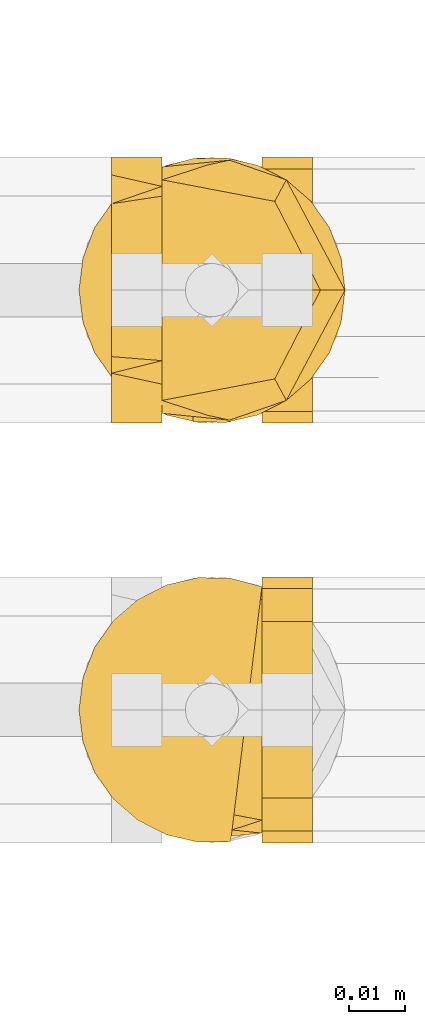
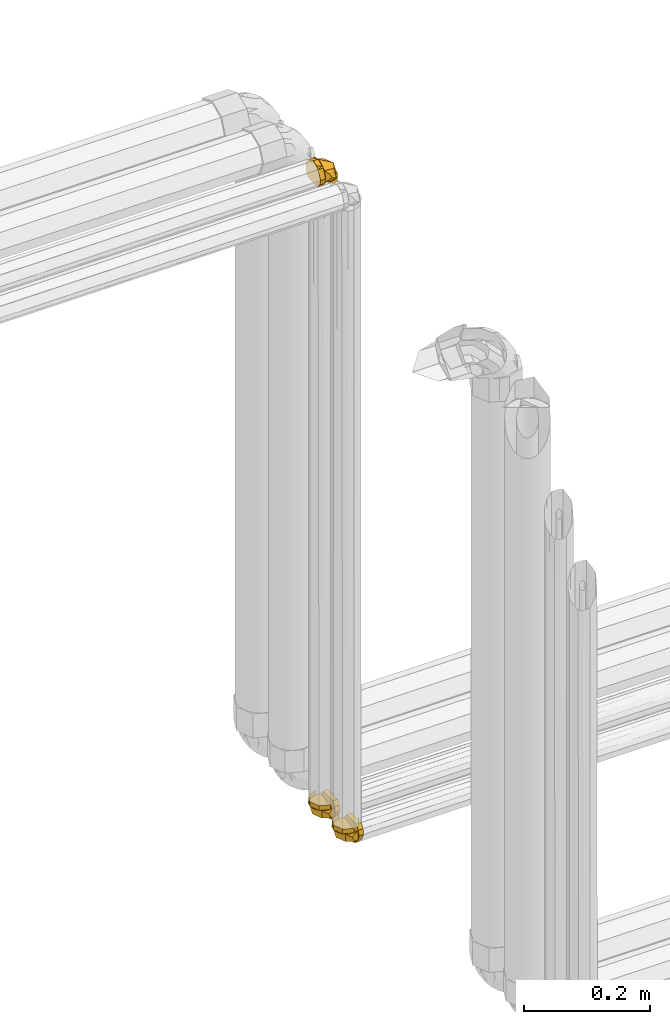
# One storey, part 371 of 652: 3 coverings.
"""IFC2X3 building model written with IfcOpenShell, lengths in millimetres."""

from ifc_helpers import new_model, entity, si_unit, converted_unit, direction, frame, origin, place, context, subcontext, project, spatial, face_set, surface_model, material, type_object, element, save


model = new_model("IFC2X3")

# Units and contexts
model_context = context("Model", 3, precision=0.01, world=frame((0.0, 0.0, 308426.39999999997)), true_north=direction((6.123233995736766e-17, 1.0)))
plan_context = context("Plan", 3, precision=0.01, world=frame((0.0, 0.0, 308426.39999999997)), true_north=direction((6.123233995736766e-17, 1.0)))
body_context = subcontext(model_context, "Body", "Model", "MODEL_VIEW")
ifc_project = project(units=[si_unit("LENGTHUNIT", "METRE", prefix="MILLI"), si_unit("AREAUNIT", "SQUARE_METRE"), si_unit("VOLUMEUNIT", "CUBIC_METRE"), converted_unit("PLANEANGLEUNIT", "DEGREE", entity("IfcPlaneAngleMeasure", 0.017453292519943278), si_unit("PLANEANGLEUNIT", "RADIAN"), dimensions=[0, 0, 0, 0, 0, 0, 0])], contexts=[model_context, plan_context])

# Site, building, storey
site_placement = place(None, origin())
site = spatial("IfcSite", under=ifc_project, at=site_placement, Name="Default", CompositionType="ELEMENT")
building_placement = place(site_placement, origin())
building = spatial("IfcBuilding", under=site, at=building_placement, CompositionType="ELEMENT")
storey_placement = place(building_placement, frame((0.0, 0.0, 1730.6999999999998)))
storey = spatial("IfcBuildingStorey", under=building, at=storey_placement, Name="EG_Produktion_FFB", CompositionType="ELEMENT", Elevation=1730.6999999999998)

# Coverings
ifc_material = material(Name="Dämmung - Armaflex-Schlauch")
covering_type = type_object("IfcCoveringType", Name="Rohrdämmung außen:Armaflex-Schlauch", PredefinedType="INSULATION")
covering_1_placement = place(storey_placement, frame((69480.61107910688, 41399.64067746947, 3825.3577722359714)))
element("IfcCovering", 1, at=covering_1_placement, inside=storey, type_object=covering_type, material=ifc_material, Name="Rohrdämmung außen:Armaflex-Schlauch", ObjectType="Rohrdämmung außen:Armaflex-Schlauch", PredefinedType="INSULATION", context=body_context, shape_type="SurfaceModel", body=[
    surface_model("IfcFaceBasedSurfaceModel", [(10.458420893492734, 47.37827577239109, -34.28827223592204), (16.054796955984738, 48.88520354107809, -34.28827223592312), (21.84951324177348, 48.99253247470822, -34.288272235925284), (27.497853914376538, 47.69387779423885, -34.288272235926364), (32.66381072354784, 45.06649381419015, -34.28827223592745), (37.04007144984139, 41.266678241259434, -34.28827223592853), (40.36630128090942, 36.52047434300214, -34.28827223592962), (42.44462959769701, 31.11022409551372, -34.2882722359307), (43.151420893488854, 25.35777223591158, -34.2882722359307), (42.44462959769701, 19.605320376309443, -34.2882722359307), (40.36630128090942, 14.19507012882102, -34.28827223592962), (37.04007144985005, 9.448866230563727, -34.28827223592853), (32.66381072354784, 5.649050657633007, -34.28827223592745), (27.497853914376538, 3.0216666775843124, -34.288272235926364), (21.84951324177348, 1.7230119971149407, -34.288272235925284), (16.054796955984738, 1.8303409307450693, -34.28827223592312), (10.458420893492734, 3.3372686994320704, -34.28827223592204), (10.458420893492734, 1.8303409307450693, -28.691896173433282), (10.458420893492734, 1.7230119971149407, -22.897179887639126), (10.458420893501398, 3.0216666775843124, -17.248839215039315), (10.458420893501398, 5.649050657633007, -12.082882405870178), (10.458420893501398, 9.448866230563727, -7.706621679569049), (10.458420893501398, 14.19507012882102, -4.380391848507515), (10.458420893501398, 19.605320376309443, -2.3020635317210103), (10.458420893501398, 25.35777223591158, -1.5952722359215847), (10.458420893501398, 31.11022409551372, -2.3020635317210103), (10.458420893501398, 36.52047434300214, -4.380391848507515), (10.458420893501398, 41.266678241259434, -7.706621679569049), (10.458420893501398, 45.06649381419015, -12.082882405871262), (10.458420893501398, 47.69387779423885, -17.248839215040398), (10.458420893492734, 48.99253247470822, -22.897179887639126), (10.458420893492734, 48.88520354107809, -28.691896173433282), (18.57932616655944, 47.71779421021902, -19.3811898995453), (30.597197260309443, 41.21586549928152, -16.867389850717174), (10.458891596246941, 46.234163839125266, -23.314670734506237), (37.96884032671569, 35.09995973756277, -34.28841951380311), (38.77344237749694, 25.356368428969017, -17.941742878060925), (10.458891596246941, 35.211580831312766, -6.838932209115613), (23.52786132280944, 25.356368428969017, -9.1399545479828), (22.523271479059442, 48.57355592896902, -27.20803773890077), (21.56053954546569, 46.22021120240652, -34.28841951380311), (18.57932616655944, 2.9995935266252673, -19.3811898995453), (22.523271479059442, 2.1391809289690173, -27.20803773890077), (30.597197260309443, 9.496871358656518, -16.867389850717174), (37.96884032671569, 15.617427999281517, -34.28841951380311), (10.458891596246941, 4.478573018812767, -23.314670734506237), (10.458891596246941, 15.617427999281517, -6.777889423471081), (24.616166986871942, 25.356368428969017, -9.76840456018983), (21.56053954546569, 4.492525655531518, -34.28841951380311), (19.38857909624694, 49.12235963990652, -43.30821779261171), (19.38857909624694, 49.12235963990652, -34.28841951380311), (36.19220458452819, 42.15999391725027, -34.28841951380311), (36.19220458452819, 42.15999391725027, -43.30821779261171), (43.14991942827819, 25.356368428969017, -34.28841951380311), (43.14991942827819, 25.356368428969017, -43.30821779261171), (36.19220458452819, 8.557393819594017, -34.28841951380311), (36.19220458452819, 8.557393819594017, -43.30821779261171), (19.38857909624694, 1.5950280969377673, -34.28841951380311), (19.38857909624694, 1.5950280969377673, -43.30821779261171), (1.4386708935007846, 4.565584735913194, -20.213040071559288), (1.4386708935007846, 7.535897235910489, -15.068307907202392), (1.4386708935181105, 10.506209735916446, -9.923575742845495), (1.4386708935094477, 13.47652223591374, -4.7788435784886), (1.4386708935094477, 19.417147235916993, -3.187057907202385), (1.4386708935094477, 25.35777223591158, -1.5952722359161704), (1.4386708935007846, 30.50250440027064, -4.565584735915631), (1.4386708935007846, 35.6472365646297, -7.535897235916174), (1.4386708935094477, 40.7919687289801, -10.506209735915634), (1.4386708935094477, 45.936700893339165, -13.476522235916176), (1.4386708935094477, 47.52848656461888, -19.41714723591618), (1.4386708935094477, 49.12027223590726, -25.357772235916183), (1.4386708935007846, 48.0724235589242, -30.23645211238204), (1.4386708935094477, 47.024574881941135, -35.11513198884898), (1.4386708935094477, 44.06585567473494, -39.13327644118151), (1.4386708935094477, 41.107136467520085, -43.15142089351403), (1.4386708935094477, 9.608408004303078, -43.15142089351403), (1.4386708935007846, 6.64968879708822, -39.13327644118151), (1.4386708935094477, 3.690969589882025, -35.11513198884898), (1.4386708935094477, 2.6431209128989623, -30.23645211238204), (1.4386708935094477, 1.5952722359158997, -25.357772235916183), (10.458420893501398, 8.55514734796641, -8.55514734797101), (10.458420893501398, 6.815178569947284, -12.755803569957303), (10.458420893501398, 5.075209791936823, -16.956459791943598), (10.458420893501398, 3.3352410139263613, -21.15711601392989), (10.458420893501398, 1.5952722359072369, -25.357772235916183), (10.458420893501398, 2.6431209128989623, -30.23645211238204), (10.458420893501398, 3.690969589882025, -35.11513198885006), (10.458420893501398, 6.729669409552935, -39.241895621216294), (10.458420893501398, 9.608408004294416, -43.15142089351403), (10.458420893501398, 41.107136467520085, -43.15142089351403), (10.458420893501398, 44.06585567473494, -39.13327644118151), (10.458420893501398, 47.02457488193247, -35.11513198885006), (10.458420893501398, 48.10074918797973, -30.104570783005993), (10.458420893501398, 49.12027223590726, -25.357772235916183), (10.458420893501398, 47.3803034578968, -21.15711601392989), (10.458420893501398, 45.64033467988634, -16.956459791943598), (10.458420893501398, 43.90036590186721, -12.755803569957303), (10.458420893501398, 42.160397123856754, -8.55514734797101), (10.458420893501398, 37.95974090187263, -6.8151785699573), (10.458420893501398, 33.759084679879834, -5.075209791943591), (10.458420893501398, 29.558428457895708, -3.3352410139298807), (10.458420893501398, 25.35777223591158, -1.5952722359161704), (10.458420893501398, 21.157116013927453, -3.3352410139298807), (10.458420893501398, 16.956459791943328, -5.075209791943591), (10.458420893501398, 12.755803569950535, -6.8151785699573)], [face_set([[[0, 1, 2, 3, 4, 5, 6, 7, 8, 9, 10, 11, 12, 13, 14, 15]], [[16, 17, 18, 19, 20, 21, 22, 23, 24, 25, 26, 27, 28, 29, 30, 31]], [[32, 28, 33]], [[32, 34, 28]], [[33, 35, 4]], [[35, 33, 36]], [[36, 8, 35]], [[33, 37, 38]], [[39, 4, 40]], [[32, 33, 39]], [[34, 32, 0]], [[4, 39, 33]], [[38, 36, 33]], [[0, 32, 39]], [[33, 28, 37]], [[37, 24, 38]], [[0, 39, 40]], [[41, 16, 42]], [[43, 44, 36]], [[20, 45, 41]], [[46, 43, 47]], [[44, 8, 36]], [[12, 43, 42]], [[44, 43, 12]], [[42, 16, 48]], [[20, 43, 46]], [[16, 41, 45]], [[43, 41, 42]], [[43, 36, 47]], [[47, 24, 46]], [[20, 41, 43]], [[48, 12, 42]]]), face_set([[[49, 50, 51, 52]], [[53, 54, 52, 51]], [[54, 53, 55, 56]], [[57, 58, 56, 55]]]), face_set([[[59, 60, 61, 62, 63, 64, 65, 66, 67, 68, 69, 70, 71, 72, 73, 74, 75, 76, 77, 78, 79]], [[80, 81, 82, 83, 84, 85, 86, 87, 88, 89, 90, 91, 92, 93, 94, 95, 96, 97, 98, 99, 100, 101, 102, 103, 104]], [[75, 74, 89, 88]], [[71, 70, 93, 92, 91, 72]], [[73, 72, 91, 90, 89, 74]], [[96, 67, 97]], [[64, 100, 65]], [[100, 99, 65]], [[69, 95, 94]], [[94, 93, 70]], [[67, 96, 68]], [[66, 99, 98]], [[64, 101, 100]], [[99, 66, 65]], [[70, 69, 94]], [[98, 97, 67]], [[96, 95, 68]], [[69, 68, 95]], [[66, 98, 67]], [[104, 61, 80]], [[79, 83, 59]], [[83, 82, 59]], [[63, 103, 102]], [[102, 101, 64]], [[61, 104, 62]], [[60, 82, 81]], [[79, 84, 83]], [[82, 60, 59]], [[64, 63, 102]], [[81, 80, 61]], [[104, 103, 62]], [[63, 62, 103]], [[60, 81, 61]], [[76, 75, 88, 87, 86, 77]], [[78, 77, 86, 85, 84, 79]]])]),
])
covering_2_placement = place(storey_placement, frame((69474.64222776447, 41399.64067746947, 2584.3418455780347)))
element("IfcCovering", 2, at=covering_2_placement, inside=storey, type_object=covering_type, material=ifc_material, Name="Rohrdämmung außen:Armaflex-Schlauch", ObjectType="Rohrdämmung außen:Armaflex-Schlauch", PredefinedType="INSULATION", context=body_context, shape_type="SurfaceModel", body=[
    surface_model("IfcFaceBasedSurfaceModel", [(34.28827223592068, 47.37827577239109, -10.458420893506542), (28.691896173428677, 1.8303409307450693, -10.458420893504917), (22.897179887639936, 1.7230119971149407, -10.458420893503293), (17.248839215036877, 3.0216666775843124, -10.45842089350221), (12.082882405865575, 5.649050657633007, -10.458420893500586), (7.706621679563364, 9.448866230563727, -10.458420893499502), (4.380391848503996, 14.19507012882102, -10.458420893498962), (2.3020635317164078, 19.605320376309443, -10.458420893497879), (1.5952722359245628, 25.35777223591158, -10.458420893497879), (2.3020635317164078, 31.11022409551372, -10.458420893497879), (4.380391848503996, 36.52047434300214, -10.458420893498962), (7.706621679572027, 41.266678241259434, -10.458420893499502), (12.082882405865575, 45.06649381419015, -10.458420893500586), (17.248839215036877, 47.69387779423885, -10.45842089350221), (22.897179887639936, 48.99253247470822, -10.458420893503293), (28.691896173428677, 48.88520354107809, -10.458420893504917), (34.28827223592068, 3.3372686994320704, -10.458420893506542), (34.28827223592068, 48.88520354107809, -16.054796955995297), (34.28827223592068, 48.99253247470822, -21.849513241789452), (34.28827223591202, 47.69387779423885, -27.49785391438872), (34.28827223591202, 45.06649381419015, -32.66381072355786), (34.28827223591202, 41.266678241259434, -37.040071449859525), (34.28827223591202, 36.52047434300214, -40.366301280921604), (34.28827223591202, 31.11022409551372, -42.44462959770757), (34.28827223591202, 25.35777223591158, -43.151420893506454), (34.28827223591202, 19.605320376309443, -42.44462959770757), (34.28827223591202, 14.19507012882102, -40.366301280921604), (34.28827223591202, 9.448866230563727, -37.040071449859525), (34.28827223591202, 5.649050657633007, -32.66381072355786), (34.28827223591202, 3.0216666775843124, -27.49785391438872), (34.28827223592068, 1.7230119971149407, -21.849513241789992), (34.28827223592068, 1.8303409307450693, -16.054796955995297), (26.166683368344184, 47.71779421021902, -25.365310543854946), (14.153463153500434, 41.21586549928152, -27.879691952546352), (34.287117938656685, 46.234163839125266, -21.43212038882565), (6.777169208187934, 35.09995973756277, -10.458371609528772), (5.977218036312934, 25.356368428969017, -26.80504824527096), (34.287117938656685, 35.211580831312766, -37.90756823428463), (21.218148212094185, 25.356368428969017, -35.60654589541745), (22.222738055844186, 48.57355592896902, -17.538462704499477), (23.185469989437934, 46.22021120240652, -10.458371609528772), (26.166683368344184, 2.9995935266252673, -25.365310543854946), (22.222738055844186, 2.1391809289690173, -17.538462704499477), (14.153463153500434, 9.496871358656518, -27.879691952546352), (6.777169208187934, 15.617427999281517, -10.458371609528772), (34.287117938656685, 4.478573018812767, -21.43212038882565), (34.287117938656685, 15.617427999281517, -37.96861101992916), (20.129842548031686, 25.356368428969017, -34.978095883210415), (23.185469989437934, 4.492525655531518, -10.458371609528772), (25.357430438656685, 49.12235963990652, -1.4385733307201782), (25.357430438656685, 49.12235963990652, -10.458371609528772), (8.553804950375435, 42.15999391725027, -10.458371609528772), (8.553804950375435, 42.15999391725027, -1.4385733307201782), (1.5960901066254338, 25.356368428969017, -10.458371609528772), (1.5960901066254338, 25.356368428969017, -1.4385733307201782), (8.553804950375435, 8.557393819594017, -10.458371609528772), (8.553804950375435, 8.557393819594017, -1.4385733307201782), (25.357430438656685, 1.5950280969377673, -10.458371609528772), (25.357430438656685, 1.5950280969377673, -1.4385733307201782), (43.30802223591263, 4.565584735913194, -24.53365305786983), (43.30802223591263, 7.535897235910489, -29.678385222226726), (43.30802223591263, 10.506209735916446, -34.823117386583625), (43.30802223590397, 13.47652223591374, -39.96784955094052), (43.30802223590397, 19.417147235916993, -41.55963522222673), (43.30802223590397, 25.35777223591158, -43.15142089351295), (43.30802223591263, 30.50250440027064, -40.18110839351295), (43.30802223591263, 35.6472365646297, -37.210795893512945), (43.30802223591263, 40.7919687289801, -34.240483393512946), (43.30802223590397, 45.936700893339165, -31.270170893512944), (43.30802223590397, 47.52848656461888, -25.32954589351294), (43.30802223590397, 49.12027223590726, -19.388920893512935), (43.30802223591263, 48.0724235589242, -14.510241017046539), (43.30802223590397, 47.024574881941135, -9.631561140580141), (43.30802223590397, 44.06585567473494, -5.613416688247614), (43.30802223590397, 41.107136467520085, -1.595272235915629), (43.30802223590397, 9.608408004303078, -1.595272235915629), (43.30802223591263, 6.64968879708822, -5.613416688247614), (43.30802223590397, 3.690969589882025, -9.6315611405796), (43.30802223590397, 2.6431209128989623, -14.510241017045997), (43.30802223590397, 1.5952722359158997, -19.388920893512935), (34.28827223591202, 8.55514734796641, -36.19154578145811), (34.28827223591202, 6.815178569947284, -31.990889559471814), (34.28827223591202, 5.075209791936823, -27.79023333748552), (34.28827223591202, 3.3352410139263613, -23.589577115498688), (34.28827223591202, 1.5952722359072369, -19.388920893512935), (34.28827223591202, 2.6431209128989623, -14.510241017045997), (34.28827223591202, 3.690969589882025, -9.631561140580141), (34.28827223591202, 6.729669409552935, -5.504797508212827), (34.28827223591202, 9.608408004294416, -1.595272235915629), (34.28827223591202, 41.107136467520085, -1.595272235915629), (34.28827223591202, 44.06585567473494, -5.613416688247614), (34.28827223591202, 47.02457488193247, -9.631561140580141), (34.28827223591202, 48.10074918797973, -14.642122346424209), (34.28827223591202, 49.12027223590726, -19.388920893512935), (34.28827223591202, 47.3803034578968, -23.589577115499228), (34.28827223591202, 45.64033467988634, -27.79023333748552), (34.28827223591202, 43.90036590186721, -31.990889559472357), (34.28827223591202, 42.160397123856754, -36.19154578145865), (34.28827223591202, 37.95974090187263, -37.931514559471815), (34.28827223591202, 33.759084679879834, -39.671483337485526), (34.28827223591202, 29.558428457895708, -41.41145211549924), (34.28827223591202, 25.35777223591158, -43.15142089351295), (34.28827223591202, 21.157116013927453, -41.41145211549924), (34.28827223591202, 16.956459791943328, -39.671483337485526), (34.28827223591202, 12.755803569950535, -37.931514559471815)], [face_set([[[0, 1, 2, 3, 4, 5, 6, 7, 8, 9, 10, 11, 12, 13, 14, 15]], [[16, 17, 18, 19, 20, 21, 22, 23, 24, 25, 26, 27, 28, 29, 30, 31]], [[32, 20, 33]], [[32, 34, 20]], [[33, 35, 12]], [[35, 33, 36]], [[36, 8, 35]], [[33, 37, 38]], [[39, 12, 40]], [[32, 33, 39]], [[34, 32, 0]], [[12, 39, 33]], [[38, 36, 33]], [[0, 32, 39]], [[33, 20, 37]], [[37, 24, 38]], [[0, 39, 40]], [[41, 16, 42]], [[43, 44, 36]], [[28, 45, 41]], [[46, 43, 47]], [[44, 8, 36]], [[4, 43, 42]], [[44, 43, 4]], [[42, 16, 48]], [[28, 43, 46]], [[16, 41, 45]], [[43, 41, 42]], [[43, 36, 47]], [[47, 24, 46]], [[28, 41, 43]], [[48, 4, 42]]]), face_set([[[49, 50, 51, 52]], [[53, 54, 52, 51]], [[54, 53, 55, 56]], [[57, 58, 56, 55]]]), face_set([[[59, 60, 61, 62, 63, 64, 65, 66, 67, 68, 69, 70, 71, 72, 73, 74, 75, 76, 77, 78, 79]], [[80, 81, 82, 83, 84, 85, 86, 87, 88, 89, 90, 91, 92, 93, 94, 95, 96, 97, 98, 99, 100, 101, 102, 103, 104]], [[75, 74, 89, 88]], [[71, 70, 93, 92, 91, 72]], [[73, 72, 91, 90, 89, 74]], [[96, 67, 97]], [[64, 100, 65]], [[100, 99, 65]], [[69, 95, 94]], [[94, 93, 70]], [[67, 96, 68]], [[66, 99, 98]], [[64, 101, 100]], [[99, 66, 65]], [[70, 69, 94]], [[98, 97, 67]], [[96, 95, 68]], [[69, 68, 95]], [[66, 98, 67]], [[104, 61, 80]], [[79, 83, 59]], [[83, 82, 59]], [[63, 103, 102]], [[102, 101, 64]], [[61, 104, 62]], [[60, 82, 81]], [[79, 84, 83]], [[82, 60, 59]], [[64, 63, 102]], [[81, 80, 61]], [[104, 103, 62]], [[63, 62, 103]], [[60, 81, 61]], [[76, 75, 88, 87, 86, 77]], [[78, 77, 86, 85, 84, 79]]])]),
])
covering_3_placement = place(storey_placement, frame((69474.64222776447, 41324.64067746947, 2584.3418455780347)))
element("IfcCovering", 3, at=covering_3_placement, inside=storey, type_object=covering_type, material=ifc_material, Name="Rohrdämmung außen:Armaflex-Schlauch", ObjectType="Rohrdämmung außen:Armaflex-Schlauch", PredefinedType="INSULATION", context=body_context, shape_type="SurfaceModel", body=[
    surface_model("IfcFaceBasedSurfaceModel", [(34.28827223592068, 47.37827577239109, -10.458420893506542), (28.691896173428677, 1.8303409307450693, -10.458420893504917), (22.897179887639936, 1.7230119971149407, -10.458420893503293), (17.248839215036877, 3.0216666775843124, -10.45842089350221), (12.082882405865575, 5.649050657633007, -10.458420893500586), (7.706621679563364, 9.448866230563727, -10.458420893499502), (4.380391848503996, 14.19507012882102, -10.458420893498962), (2.3020635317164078, 19.605320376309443, -10.458420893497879), (1.5952722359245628, 25.35777223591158, -10.458420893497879), (2.3020635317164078, 31.11022409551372, -10.458420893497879), (4.380391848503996, 36.52047434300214, -10.458420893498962), (7.706621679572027, 41.266678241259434, -10.458420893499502), (12.082882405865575, 45.06649381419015, -10.458420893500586), (17.248839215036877, 47.69387779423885, -10.45842089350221), (22.897179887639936, 48.99253247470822, -10.458420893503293), (28.691896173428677, 48.88520354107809, -10.458420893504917), (34.28827223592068, 3.3372686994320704, -10.458420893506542), (34.28827223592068, 48.88520354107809, -16.054796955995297), (34.28827223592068, 48.99253247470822, -21.849513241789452), (34.28827223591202, 47.69387779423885, -27.49785391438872), (34.28827223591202, 45.06649381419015, -32.66381072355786), (34.28827223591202, 41.266678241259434, -37.040071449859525), (34.28827223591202, 36.52047434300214, -40.366301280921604), (34.28827223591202, 31.11022409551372, -42.44462959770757), (34.28827223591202, 25.35777223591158, -43.151420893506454), (34.28827223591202, 19.605320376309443, -42.44462959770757), (34.28827223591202, 14.19507012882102, -40.366301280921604), (34.28827223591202, 9.448866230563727, -37.040071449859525), (34.28827223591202, 5.649050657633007, -32.66381072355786), (34.28827223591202, 3.0216666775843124, -27.49785391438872), (34.28827223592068, 1.7230119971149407, -21.849513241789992), (34.28827223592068, 1.8303409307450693, -16.054796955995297), (26.166683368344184, 47.71772096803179, -25.365310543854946), (14.153463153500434, 41.21579225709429, -27.879691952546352), (34.287117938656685, 46.23409059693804, -21.43212038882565), (6.777169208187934, 35.09988649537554, -10.458371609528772), (5.977218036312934, 25.35629518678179, -26.80504824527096), (34.287117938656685, 35.21150758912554, -37.90756823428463), (21.218148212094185, 25.35629518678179, -35.60654589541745), (22.222738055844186, 48.573482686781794, -17.538462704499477), (23.185469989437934, 46.22013796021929, -10.458371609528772), (26.166683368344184, 2.99952028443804, -25.365310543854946), (22.222738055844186, 2.13910768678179, -17.538462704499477), (14.153463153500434, 9.496798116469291, -27.879691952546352), (6.777169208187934, 15.61735475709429, -10.458371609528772), (34.287117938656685, 4.47849977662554, -21.43212038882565), (34.287117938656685, 15.61735475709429, -37.96861101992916), (20.129842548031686, 25.35629518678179, -34.978095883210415), (23.185469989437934, 4.4924524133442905, -10.458371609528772), (25.357430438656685, 49.12228639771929, -1.4385733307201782), (25.357430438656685, 49.12228639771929, -10.458371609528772), (8.553804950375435, 42.15992067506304, -10.458371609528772), (8.553804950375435, 42.15992067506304, -1.4385733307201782), (1.5960901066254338, 25.35629518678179, -10.458371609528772), (1.5960901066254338, 25.35629518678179, -1.4385733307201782), (8.553804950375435, 8.55732057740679, -10.458371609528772), (8.553804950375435, 8.55732057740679, -1.4385733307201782), (25.357430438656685, 1.59495485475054, -10.458371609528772), (25.357430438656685, 1.59495485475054, -1.4385733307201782), (43.30802223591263, 4.565584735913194, -24.53365305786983), (43.30802223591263, 7.535897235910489, -29.678385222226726), (43.30802223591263, 10.506209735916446, -34.823117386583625), (43.30802223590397, 13.47652223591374, -39.96784955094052), (43.30802223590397, 19.417147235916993, -41.55963522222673), (43.30802223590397, 25.35777223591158, -43.15142089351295), (43.30802223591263, 30.50250440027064, -40.18110839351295), (43.30802223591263, 35.6472365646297, -37.210795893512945), (43.30802223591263, 40.7919687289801, -34.240483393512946), (43.30802223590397, 45.936700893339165, -31.270170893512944), (43.30802223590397, 47.52848656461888, -25.32954589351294), (43.30802223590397, 49.12027223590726, -19.388920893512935), (43.30802223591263, 48.0724235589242, -14.510241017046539), (43.30802223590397, 47.024574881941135, -9.631561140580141), (43.30802223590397, 44.06585567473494, -5.613416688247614), (43.30802223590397, 41.107136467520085, -1.595272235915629), (43.30802223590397, 9.608408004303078, -1.595272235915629), (43.30802223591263, 6.64968879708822, -5.613416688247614), (43.30802223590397, 3.690969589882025, -9.6315611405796), (43.30802223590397, 2.6431209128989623, -14.510241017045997), (43.30802223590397, 1.5952722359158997, -19.388920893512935), (34.28827223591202, 8.55514734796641, -36.19154578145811), (34.28827223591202, 6.815178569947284, -31.990889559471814), (34.28827223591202, 5.075209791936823, -27.79023333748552), (34.28827223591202, 3.3352410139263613, -23.589577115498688), (34.28827223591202, 1.5952722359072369, -19.388920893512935), (34.28827223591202, 2.6431209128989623, -14.510241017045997), (34.28827223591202, 3.690969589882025, -9.631561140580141), (34.28827223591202, 6.729669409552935, -5.504797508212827), (34.28827223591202, 9.608408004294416, -1.595272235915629), (34.28827223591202, 41.107136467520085, -1.595272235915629), (34.28827223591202, 44.06585567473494, -5.613416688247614), (34.28827223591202, 47.02457488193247, -9.631561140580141), (34.28827223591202, 48.10074918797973, -14.642122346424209), (34.28827223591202, 49.12027223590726, -19.388920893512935), (34.28827223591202, 47.3803034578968, -23.589577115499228), (34.28827223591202, 45.64033467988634, -27.79023333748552), (34.28827223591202, 43.90036590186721, -31.990889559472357), (34.28827223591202, 42.160397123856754, -36.19154578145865), (34.28827223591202, 37.95974090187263, -37.931514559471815), (34.28827223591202, 33.759084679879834, -39.671483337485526), (34.28827223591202, 29.558428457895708, -41.41145211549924), (34.28827223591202, 25.35777223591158, -43.15142089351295), (34.28827223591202, 21.157116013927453, -41.41145211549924), (34.28827223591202, 16.956459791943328, -39.671483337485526), (34.28827223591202, 12.755803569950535, -37.931514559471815)], [face_set([[[0, 1, 2, 3, 4, 5, 6, 7, 8, 9, 10, 11, 12, 13, 14, 15]], [[16, 17, 18, 19, 20, 21, 22, 23, 24, 25, 26, 27, 28, 29, 30, 31]], [[32, 20, 33]], [[32, 34, 20]], [[33, 35, 12]], [[35, 33, 36]], [[36, 8, 35]], [[33, 37, 38]], [[39, 12, 40]], [[32, 33, 39]], [[34, 32, 0]], [[12, 39, 33]], [[38, 36, 33]], [[0, 32, 39]], [[33, 20, 37]], [[37, 24, 38]], [[0, 39, 40]], [[41, 16, 42]], [[43, 44, 36]], [[28, 45, 41]], [[46, 43, 47]], [[44, 8, 36]], [[4, 43, 42]], [[44, 43, 4]], [[42, 16, 48]], [[28, 43, 46]], [[16, 41, 45]], [[43, 41, 42]], [[43, 36, 47]], [[47, 24, 46]], [[28, 41, 43]], [[48, 4, 42]]]), face_set([[[49, 50, 51, 52]], [[53, 54, 52, 51]], [[54, 53, 55, 56]], [[57, 58, 56, 55]]]), face_set([[[59, 60, 61, 62, 63, 64, 65, 66, 67, 68, 69, 70, 71, 72, 73, 74, 75, 76, 77, 78, 79]], [[80, 81, 82, 83, 84, 85, 86, 87, 88, 89, 90, 91, 92, 93, 94, 95, 96, 97, 98, 99, 100, 101, 102, 103, 104]], [[75, 74, 89, 88]], [[71, 70, 93, 92, 91, 72]], [[73, 72, 91, 90, 89, 74]], [[96, 67, 97]], [[64, 100, 65]], [[100, 99, 65]], [[69, 95, 94]], [[94, 93, 70]], [[67, 96, 68]], [[66, 99, 98]], [[64, 101, 100]], [[99, 66, 65]], [[70, 69, 94]], [[98, 97, 67]], [[96, 95, 68]], [[69, 68, 95]], [[66, 98, 67]], [[104, 61, 80]], [[79, 83, 59]], [[83, 82, 59]], [[63, 103, 102]], [[102, 101, 64]], [[61, 104, 62]], [[60, 82, 81]], [[79, 84, 83]], [[82, 60, 59]], [[64, 63, 102]], [[81, 80, 61]], [[104, 103, 62]], [[63, 62, 103]], [[60, 81, 61]], [[76, 75, 88, 87, 86, 77]], [[78, 77, 86, 85, 84, 79]]])]),
])

save(model, "model.ifc")
